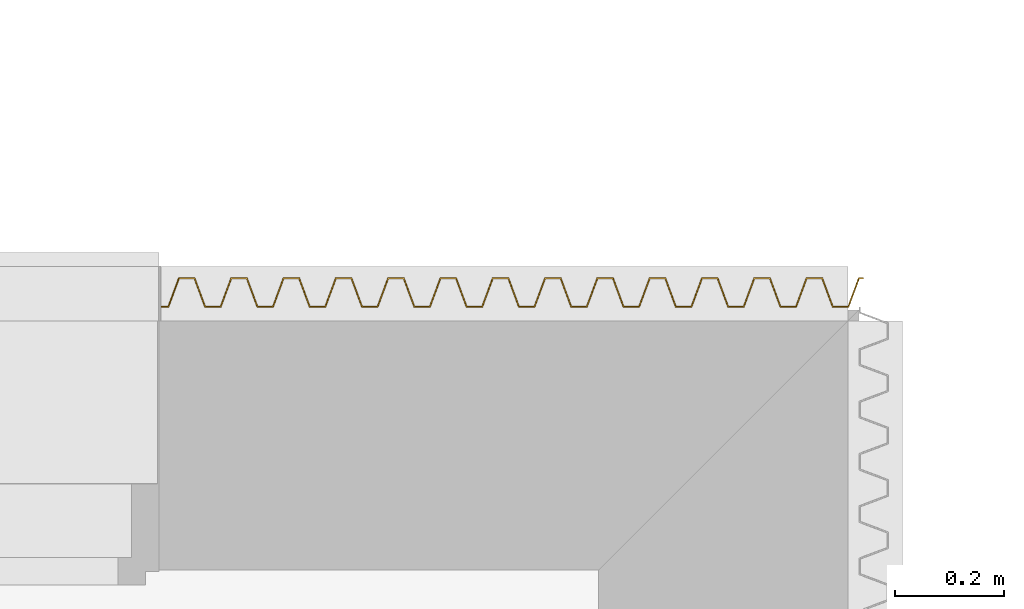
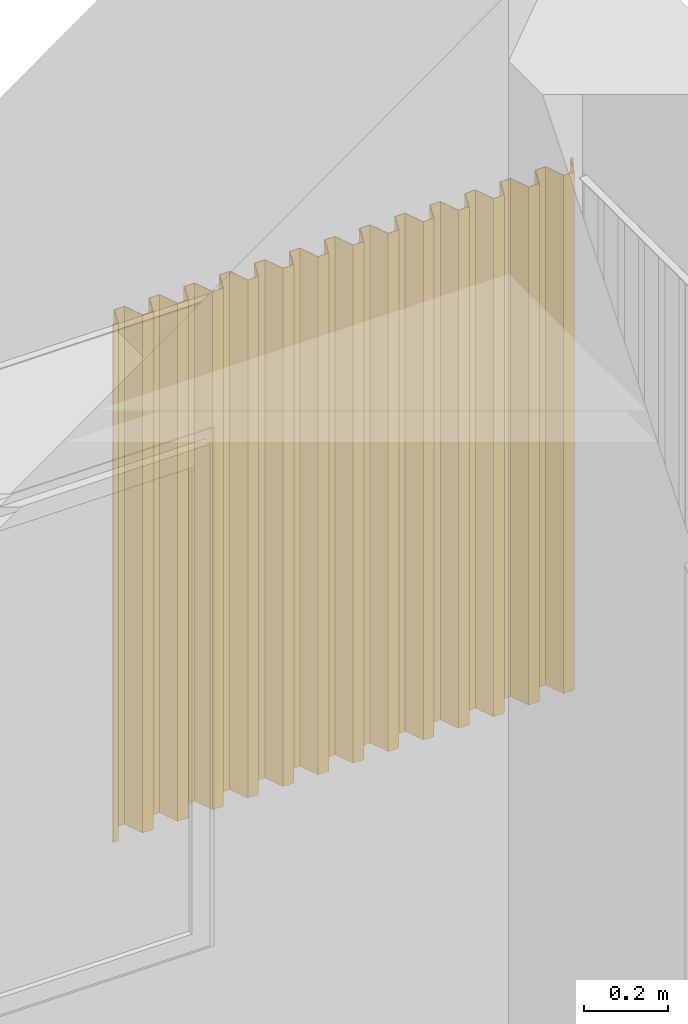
# One storey, part 87 of 91: 1 covering.
"""IFC2X3 building model written with IfcOpenShell, lengths in metres."""

from ifc_helpers import new_model, entity, si_unit, converted_unit, derived_unit, money_unit, direction, frame, origin_with_axes, place, context, subcontext, project, spatial, faceted_brep, material, type_object, element, save


model = new_model("IFC2X3")

# Units and contexts
model_context = context("Model", 3, precision=1e-05, world=origin_with_axes(), true_north=direction((0.0, 1.0)))
body_context = subcontext(model_context, "Body", "Model", "MODEL_VIEW")
ifc_project = project(units=[si_unit("LENGTHUNIT", "METRE"), si_unit("AREAUNIT", "SQUARE_METRE"), si_unit("VOLUMEUNIT", "CUBIC_METRE"), converted_unit("PLANEANGLEUNIT", "DEGREE", entity("IfcPlaneAngleMeasure", 0.0174532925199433), si_unit("PLANEANGLEUNIT", "RADIAN"), dimensions=[0, 0, 0, 0, 0, 0, 0]), money_unit("EUR"), converted_unit("TIMEUNIT", "Year", entity("IfcTimeMeasure", 31557600.0), si_unit("TIMEUNIT", "SECOND"), dimensions=[0, 0, 1, 0, 0, 0, 0]), si_unit("MASSUNIT", "GRAM", prefix="KILO"), si_unit("THERMODYNAMICTEMPERATUREUNIT", "DEGREE_CELSIUS"), si_unit("LUMINOUSINTENSITYUNIT", "LUMEN"), si_unit("ENERGYUNIT", "JOULE", prefix="MEGA"), derived_unit("THERMALCONDUCTANCEUNIT", [(si_unit("POWERUNIT", "WATT"), 1), (si_unit("LENGTHUNIT", "METRE"), -1), (si_unit("THERMODYNAMICTEMPERATUREUNIT", "KELVIN"), -1)]), derived_unit("SPECIFICHEATCAPACITYUNIT", [(si_unit("ENERGYUNIT", "JOULE"), 1), (si_unit("MASSUNIT", "GRAM", prefix="KILO"), -1), (si_unit("THERMODYNAMICTEMPERATUREUNIT", "KELVIN"), -1)]), derived_unit("MASSDENSITYUNIT", [(si_unit("MASSUNIT", "GRAM", prefix="KILO"), 1), (si_unit("VOLUMEUNIT", "CUBIC_METRE"), -1)])], contexts=[model_context])

# Site, building, storey
site_placement = place(None, origin_with_axes())
site = spatial("IfcSite", under=ifc_project, at=site_placement, Name="Site", CompositionType="ELEMENT")
building_placement = place(site_placement, origin_with_axes())
building = spatial("IfcBuilding", under=site, at=building_placement, Name="Bâtiment", CompositionType="ELEMENT")
storey_placement = place(building_placement, origin_with_axes())
storey = spatial("IfcBuildingStorey", under=building, at=storey_placement, Name="RDC", CompositionType="ELEMENT", Elevation=0.0)

# Covering
ifc_material = material(Name="Métal - Acier")
covering_type = type_object("IfcCoveringType", Name="Tôle profilée 27", PredefinedType="NOTDEFINED")
covering_placement = place(storey_placement, frame((58.99607972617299, -10.7747362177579, 1.00281176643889), z_axis=(0.0, 0.0, 1.0), x_axis=(-3.309421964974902e-07, -0.9999999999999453, 0.0)))
element("IfcCovering", 1, at=covering_placement, inside=storey, type_object=covering_type, material=ifc_material, Name="PLACE STATIONNEMENT PMR", PredefinedType="NOTDEFINED", context=body_context, shape_type="Brep", body=[
    faceted_brep([(0.0, 0.0, 0.0), (0.0, 0.01500000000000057, 0.0), (0.0, 0.01500000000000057, 1.498499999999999), (0.0, 0.0, 1.498499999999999), (-0.002, 0.0, 0.0), (-0.001999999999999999, 0.01361121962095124, 0.0), (-0.05399999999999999, 0.03299999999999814, 0.0), (-0.05399999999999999, 0.06299999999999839, 0.0), (-0.001999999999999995, 0.08238878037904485, 0.0), (-0.001999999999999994, 0.1096112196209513, 0.0), (-0.05399999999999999, 0.1289999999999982, 0.0), (-0.05399999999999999, 0.1589999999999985, 0.0), (-0.001999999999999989, 0.1783887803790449, 0.0), (-0.001999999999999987, 0.2056112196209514, 0.0), (-0.05399999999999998, 0.2249999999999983, 0.0), (-0.05399999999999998, 0.2549999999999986, 0.0), (-0.001999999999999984, 0.274388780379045, 0.0), (-0.001999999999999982, 0.3016112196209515, 0.0), (-0.05399999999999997, 0.3209999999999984, 0.0), (-0.05399999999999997, 0.3509999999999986, 0.0), (-0.001999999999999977, 0.3703887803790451, 0.0), (-0.001999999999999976, 0.3976112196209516, 0.0), (-0.05399999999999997, 0.4169999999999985, 0.0), (-0.05399999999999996, 0.4469999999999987, 0.0), (-0.001999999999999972, 0.4663887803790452, 0.0), (-0.00199999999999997, 0.4936112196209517, 0.0), (-0.05399999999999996, 0.5129999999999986, 0.0), (-0.05399999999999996, 0.5429999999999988, 0.0), (-0.001999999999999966, 0.5623887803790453, 0.0), (-0.001999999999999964, 0.5896112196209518, 0.0), (-0.05399999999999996, 0.6089999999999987, 0.0), (-0.05399999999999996, 0.6389999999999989, 0.0), (-0.00199999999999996, 0.6583887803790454, 0.0), (-0.001999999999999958, 0.6856112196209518, 0.0), (-0.05399999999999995, 0.7049999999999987, 0.0), (-0.05399999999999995, 0.734999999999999, 0.0), (-0.001999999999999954, 0.7543887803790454, 0.0), (-0.001999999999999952, 0.7816112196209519, 0.0), (-0.05399999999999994, 0.8009999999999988, 0.0), (-0.05399999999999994, 0.8309999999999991, 0.0), (-0.001999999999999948, 0.8503887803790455, 0.0), (-0.001999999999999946, 0.877611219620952, 0.0), (-0.05399999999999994, 0.8969999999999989, 0.0), (-0.05399999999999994, 0.9269999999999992, 0.0), (-0.001999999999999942, 0.9463887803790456, 0.0), (-0.001999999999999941, 0.9736112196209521, 0.0), (-0.05399999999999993, 0.992999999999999, 0.0), (-0.05399999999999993, 1.022999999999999, 0.0), (-0.001999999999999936, 1.042388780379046, 0.0), (-0.001999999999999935, 1.069611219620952, 0.0), (-0.05399999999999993, 1.088999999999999, 0.0), (-0.05399999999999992, 1.118999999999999, 0.0), (-0.001999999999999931, 1.138388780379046, 0.0), (-0.001999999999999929, 1.165611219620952, 0.0), (-0.05399999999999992, 1.184999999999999, 0.0), (-0.05399999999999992, 1.214999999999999, 0.0), (-0.001999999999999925, 1.234388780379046, 0.0), (-0.001999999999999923, 1.261611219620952, 0.0), (-0.05399999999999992, 1.280999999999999, 0.0), (-0.05399999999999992, 1.290000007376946, 0.0), (-0.05199999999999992, 1.290000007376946, 0.0), (-0.05199999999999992, 1.282388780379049, 0.0), (0.0, 1.263000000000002, 0.0), (0.0, 1.233000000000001, 0.0), (-0.05199999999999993, 1.213611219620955, 0.0), (-0.05199999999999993, 1.186388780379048, 0.0), (0.0, 1.167000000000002, 0.0), (0.0, 1.137000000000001, 0.0), (-0.05199999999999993, 1.117611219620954, 0.0), (-0.05199999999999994, 1.090388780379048, 0.0), (0.0, 1.071000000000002, 0.0), (0.0, 1.041000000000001, 0.0), (-0.05199999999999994, 1.021611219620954, 0.0), (-0.05199999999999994, 0.9943887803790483, 0.0), (0.0, 0.9750000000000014, 0.0), (0.0, 0.9450000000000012, 0.0), (-0.05199999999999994, 0.9256112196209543, 0.0), (-0.05199999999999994, 0.8983887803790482, 0.0), (0.0, 0.8790000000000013, 0.0), (0.0, 0.8490000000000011, 0.0), (-0.05199999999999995, 0.8296112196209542, 0.0), (-0.05199999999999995, 0.8023887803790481, 0.0), (0.0, 0.7830000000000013, 0.0), (0.0, 0.753000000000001, 0.0), (-0.05199999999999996, 0.7336112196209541, 0.0), (-0.05199999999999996, 0.7063887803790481, 0.0), (0.0, 0.6870000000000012, 0.0), (0.0, 0.6570000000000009, 0.0), (-0.05199999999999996, 0.637611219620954, 0.0), (-0.05199999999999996, 0.610388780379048, 0.0), (0.0, 0.5910000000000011, 0.0), (0.0, 0.5610000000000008, 0.0), (-0.05199999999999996, 0.5416112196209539, 0.0), (-0.05199999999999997, 0.5143887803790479, 0.0), (0.0, 0.495000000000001, 0.0), (0.0, 0.4650000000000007, 0.0), (-0.05199999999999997, 0.4456112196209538, 0.0), (-0.05199999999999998, 0.4183887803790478, 0.0), (0.0, 0.3990000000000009, 0.0), (0.0, 0.3690000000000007, 0.0), (-0.05199999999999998, 0.3496112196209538, 0.0), (-0.05199999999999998, 0.3223887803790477, 0.0), (0.0, 0.3030000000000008, 0.0), (0.0, 0.2730000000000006, 0.0), (-0.05199999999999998, 0.2536112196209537, 0.0), (-0.05199999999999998, 0.2263887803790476, 0.0), (0.0, 0.2070000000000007, 0.0), (0.0, 0.1770000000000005, 0.0), (-0.05199999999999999, 0.1576112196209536, 0.0), (-0.05199999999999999, 0.1303887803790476, 0.0), (0.0, 0.1110000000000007, 0.0), (0.0, 0.0810000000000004, 0.0), (-0.052, 0.06161121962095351, 0.0), (-0.052, 0.03438878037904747, 0.0), (-0.052, 0.03438878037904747, 1.498499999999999), (-0.052, 0.06161121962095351, 1.498499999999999), (0.0, 0.0810000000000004, 1.498499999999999), (0.0, 0.1110000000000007, 1.498499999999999), (-0.05199999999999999, 0.1303887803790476, 1.498499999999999), (-0.05199999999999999, 0.1576112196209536, 1.498499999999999), (0.0, 0.1770000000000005, 1.498499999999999), (0.0, 0.2070000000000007, 1.498499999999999), (-0.05199999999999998, 0.2263887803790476, 1.498499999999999), (-0.05199999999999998, 0.2536112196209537, 1.498499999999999), (0.0, 0.2730000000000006, 1.498499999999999), (0.0, 0.3030000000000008, 1.498499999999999), (-0.05199999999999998, 0.3223887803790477, 1.498499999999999), (-0.05199999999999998, 0.3496112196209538, 1.498499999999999), (0.0, 0.3690000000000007, 1.498499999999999), (0.0, 0.3990000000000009, 1.498499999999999), (-0.05199999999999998, 0.4183887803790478, 1.498499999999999), (-0.05199999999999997, 0.4456112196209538, 1.498499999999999), (0.0, 0.4650000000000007, 1.498499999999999), (0.0, 0.495000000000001, 1.498499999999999), (-0.05199999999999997, 0.5143887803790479, 1.498499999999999), (-0.05199999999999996, 0.5416112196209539, 1.498499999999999), (0.0, 0.5610000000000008, 1.498499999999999), (0.0, 0.5910000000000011, 1.498499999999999), (-0.05199999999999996, 0.610388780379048, 1.498499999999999), (-0.05199999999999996, 0.637611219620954, 1.498499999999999), (0.0, 0.6570000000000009, 1.498499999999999), (0.0, 0.6870000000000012, 1.498499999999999), (-0.05199999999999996, 0.7063887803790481, 1.498499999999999), (-0.05199999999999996, 0.7336112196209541, 1.498499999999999), (0.0, 0.753000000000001, 1.498499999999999), (0.0, 0.7830000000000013, 1.498499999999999), (-0.05199999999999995, 0.8023887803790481, 1.498499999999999), (-0.05199999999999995, 0.8296112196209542, 1.498499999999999), (0.0, 0.8490000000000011, 1.498499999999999), (0.0, 0.8790000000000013, 1.498499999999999), (-0.05199999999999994, 0.8983887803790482, 1.498499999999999), (-0.05199999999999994, 0.9256112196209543, 1.498499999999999), (0.0, 0.9450000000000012, 1.498499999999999), (0.0, 0.9750000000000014, 1.498499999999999), (-0.05199999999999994, 0.9943887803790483, 1.498499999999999), (-0.05199999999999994, 1.021611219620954, 1.498499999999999), (0.0, 1.041000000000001, 1.498499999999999), (0.0, 1.071000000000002, 1.498499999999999), (-0.05199999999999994, 1.090388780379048, 1.498499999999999), (-0.05199999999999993, 1.117611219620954, 1.498499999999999), (0.0, 1.137000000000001, 1.498499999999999), (0.0, 1.167000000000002, 1.498499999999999), (-0.05199999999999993, 1.186388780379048, 1.498499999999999), (-0.05199999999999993, 1.213611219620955, 1.498499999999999), (0.0, 1.233000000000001, 1.498499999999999), (0.0, 1.263000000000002, 1.498499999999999), (-0.05199999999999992, 1.282388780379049, 1.498499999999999), (-0.05199999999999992, 1.290000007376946, 1.498499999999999), (-0.05399999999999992, 1.290000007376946, 1.498499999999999), (-0.05399999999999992, 1.280999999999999, 1.498499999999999), (-0.001999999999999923, 1.261611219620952, 1.498499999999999), (-0.001999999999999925, 1.234388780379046, 1.498499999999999), (-0.05399999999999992, 1.214999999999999, 1.498499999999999), (-0.05399999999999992, 1.184999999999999, 1.498499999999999), (-0.001999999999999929, 1.165611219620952, 1.498499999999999), (-0.001999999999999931, 1.138388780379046, 1.498499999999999), (-0.05399999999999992, 1.118999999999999, 1.498499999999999), (-0.05399999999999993, 1.088999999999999, 1.498499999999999), (-0.001999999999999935, 1.069611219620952, 1.498499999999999), (-0.001999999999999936, 1.042388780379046, 1.498499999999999), (-0.05399999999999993, 1.022999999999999, 1.498499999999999), (-0.05399999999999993, 0.992999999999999, 1.498499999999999), (-0.001999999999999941, 0.9736112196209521, 1.498499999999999), (-0.001999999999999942, 0.9463887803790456, 1.498499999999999), (-0.05399999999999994, 0.9269999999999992, 1.498499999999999), (-0.05399999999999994, 0.8969999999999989, 1.498499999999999), (-0.001999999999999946, 0.877611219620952, 1.498499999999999), (-0.001999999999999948, 0.8503887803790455, 1.498499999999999), (-0.05399999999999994, 0.8309999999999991, 1.498499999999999), (-0.05399999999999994, 0.8009999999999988, 1.498499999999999), (-0.001999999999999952, 0.7816112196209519, 1.498499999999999), (-0.001999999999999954, 0.7543887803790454, 1.498499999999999), (-0.05399999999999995, 0.734999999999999, 1.498499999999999), (-0.05399999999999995, 0.7049999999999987, 1.498499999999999), (-0.001999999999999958, 0.6856112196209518, 1.498499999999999), (-0.00199999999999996, 0.6583887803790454, 1.498499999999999), (-0.05399999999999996, 0.6389999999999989, 1.498499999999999), (-0.05399999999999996, 0.6089999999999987, 1.498499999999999), (-0.001999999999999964, 0.5896112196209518, 1.498499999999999), (-0.001999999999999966, 0.5623887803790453, 1.498499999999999), (-0.05399999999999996, 0.5429999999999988, 1.498499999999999), (-0.05399999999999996, 0.5129999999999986, 1.498499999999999), (-0.00199999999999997, 0.4936112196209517, 1.498499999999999), (-0.001999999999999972, 0.4663887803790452, 1.498499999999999), (-0.05399999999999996, 0.4469999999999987, 1.498499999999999), (-0.05399999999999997, 0.4169999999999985, 1.498499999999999), (-0.001999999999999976, 0.3976112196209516, 1.498499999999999), (-0.001999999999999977, 0.3703887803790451, 1.498499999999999), (-0.05399999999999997, 0.3509999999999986, 1.498499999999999), (-0.05399999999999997, 0.3209999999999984, 1.498499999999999), (-0.001999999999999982, 0.3016112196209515, 1.498499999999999), (-0.001999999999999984, 0.274388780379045, 1.498499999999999), (-0.05399999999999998, 0.2549999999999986, 1.498499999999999), (-0.05399999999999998, 0.2249999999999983, 1.498499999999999), (-0.001999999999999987, 0.2056112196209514, 1.498499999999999), (-0.001999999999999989, 0.1783887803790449, 1.498499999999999), (-0.05399999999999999, 0.1589999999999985, 1.498499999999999), (-0.05399999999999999, 0.1289999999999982, 1.498499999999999), (-0.001999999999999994, 0.1096112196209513, 1.498499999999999), (-0.001999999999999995, 0.08238878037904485, 1.498499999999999), (-0.05399999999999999, 0.06299999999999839, 1.498499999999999), (-0.05399999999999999, 0.03299999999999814, 1.498499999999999), (-0.001999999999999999, 0.01361121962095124, 1.498499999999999), (-0.002, 0.0, 1.498499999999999)], [[[0, 1, 2, 3]], [[4, 5, 6, 7, 8, 9, 10, 11, 12, 13, 14, 15, 16, 17, 18, 19, 20, 21, 22, 23, 24, 25, 26, 27, 28, 29, 30, 31, 32, 33, 34, 35, 36, 37, 38, 39, 40, 41, 42, 43, 44, 45, 46, 47, 48, 49, 50, 51, 52, 53, 54, 55, 56, 57, 58, 59, 60, 61, 62, 63, 64, 65, 66, 67, 68, 69, 70, 71, 72, 73, 74, 75, 76, 77, 78, 79, 80, 81, 82, 83, 84, 85, 86, 87, 88, 89, 90, 91, 92, 93, 94, 95, 96, 97, 98, 99, 100, 101, 102, 103, 104, 105, 106, 107, 108, 109, 110, 111, 112, 113, 1, 0]], [[1, 113, 114, 2]], [[2, 114, 115, 116, 117, 118, 119, 120, 121, 122, 123, 124, 125, 126, 127, 128, 129, 130, 131, 132, 133, 134, 135, 136, 137, 138, 139, 140, 141, 142, 143, 144, 145, 146, 147, 148, 149, 150, 151, 152, 153, 154, 155, 156, 157, 158, 159, 160, 161, 162, 163, 164, 165, 166, 167, 168, 169, 170, 171, 172, 173, 174, 175, 176, 177, 178, 179, 180, 181, 182, 183, 184, 185, 186, 187, 188, 189, 190, 191, 192, 193, 194, 195, 196, 197, 198, 199, 200, 201, 202, 203, 204, 205, 206, 207, 208, 209, 210, 211, 212, 213, 214, 215, 216, 217, 218, 219, 220, 221, 222, 223, 3]], [[0, 3, 223, 4]], [[5, 4, 223, 222]], [[6, 5, 222, 221]], [[7, 6, 221, 220]], [[8, 7, 220, 219]], [[9, 8, 219, 218]], [[10, 9, 218, 217]], [[11, 10, 217, 216]], [[12, 11, 216, 215]], [[13, 12, 215, 214]], [[14, 13, 214, 213]], [[15, 14, 213, 212]], [[16, 15, 212, 211]], [[17, 16, 211, 210]], [[18, 17, 210, 209]], [[19, 18, 209, 208]], [[20, 19, 208, 207]], [[21, 20, 207, 206]], [[22, 21, 206, 205]], [[23, 22, 205, 204]], [[24, 23, 204, 203]], [[25, 24, 203, 202]], [[26, 25, 202, 201]], [[27, 26, 201, 200]], [[28, 27, 200, 199]], [[29, 28, 199, 198]], [[30, 29, 198, 197]], [[31, 30, 197, 196]], [[32, 31, 196, 195]], [[33, 32, 195, 194]], [[34, 33, 194, 193]], [[35, 34, 193, 192]], [[36, 35, 192, 191]], [[37, 36, 191, 190]], [[38, 37, 190, 189]], [[39, 38, 189, 188]], [[40, 39, 188, 187]], [[41, 40, 187, 186]], [[42, 41, 186, 185]], [[43, 42, 185, 184]], [[44, 43, 184, 183]], [[45, 44, 183, 182]], [[46, 45, 182, 181]], [[47, 46, 181, 180]], [[48, 47, 180, 179]], [[49, 48, 179, 178]], [[50, 49, 178, 177]], [[51, 50, 177, 176]], [[52, 51, 176, 175]], [[53, 52, 175, 174]], [[54, 53, 174, 173]], [[55, 54, 173, 172]], [[56, 55, 172, 171]], [[57, 56, 171, 170]], [[58, 57, 170, 169]], [[59, 58, 169, 168]], [[60, 59, 168, 167]], [[61, 60, 167, 166]], [[62, 61, 166, 165]], [[63, 62, 165, 164]], [[64, 63, 164, 163]], [[65, 64, 163, 162]], [[66, 65, 162, 161]], [[67, 66, 161, 160]], [[68, 67, 160, 159]], [[69, 68, 159, 158]], [[70, 69, 158, 157]], [[71, 70, 157, 156]], [[72, 71, 156, 155]], [[73, 72, 155, 154]], [[74, 73, 154, 153]], [[75, 74, 153, 152]], [[76, 75, 152, 151]], [[77, 76, 151, 150]], [[78, 77, 150, 149]], [[79, 78, 149, 148]], [[80, 79, 148, 147]], [[81, 80, 147, 146]], [[82, 81, 146, 145]], [[83, 82, 145, 144]], [[84, 83, 144, 143]], [[85, 84, 143, 142]], [[86, 85, 142, 141]], [[87, 86, 141, 140]], [[88, 87, 140, 139]], [[89, 88, 139, 138]], [[90, 89, 138, 137]], [[91, 90, 137, 136]], [[92, 91, 136, 135]], [[93, 92, 135, 134]], [[94, 93, 134, 133]], [[95, 94, 133, 132]], [[96, 95, 132, 131]], [[97, 96, 131, 130]], [[98, 97, 130, 129]], [[99, 98, 129, 128]], [[100, 99, 128, 127]], [[101, 100, 127, 126]], [[102, 101, 126, 125]], [[103, 102, 125, 124]], [[104, 103, 124, 123]], [[105, 104, 123, 122]], [[106, 105, 122, 121]], [[107, 106, 121, 120]], [[108, 107, 120, 119]], [[109, 108, 119, 118]], [[110, 109, 118, 117]], [[111, 110, 117, 116]], [[112, 111, 116, 115]], [[113, 112, 115, 114]]]),
])

save(model, "model.ifc")
